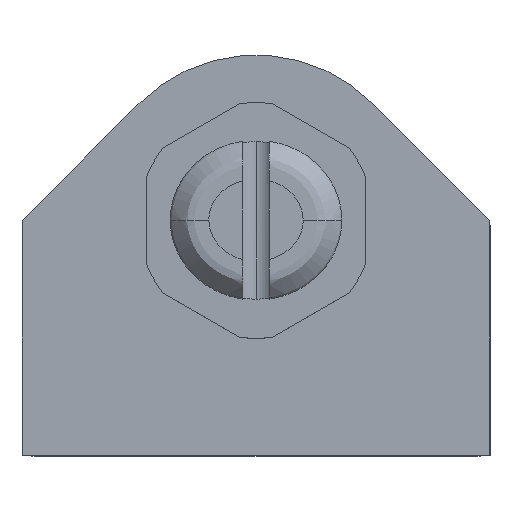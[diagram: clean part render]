
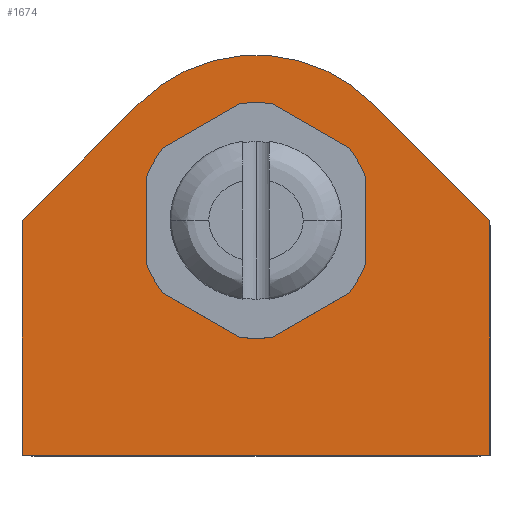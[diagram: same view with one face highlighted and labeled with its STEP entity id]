
A CAD part, top view. The second image highlights one B-rep face of the part: STEP entity #1674.
In plain terms, the highlighted planar face has unit normal (0, 0, 1).
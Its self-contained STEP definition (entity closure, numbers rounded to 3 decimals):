
#3 = ORIENTED_EDGE ( 'NONE', *, *, #2504, .T. ) ;
#42 = ORIENTED_EDGE ( 'NONE', *, *, #3768, .F. ) ;
#78 = CIRCLE ( 'NONE', #1520, 3.125 ) ;
#124 = VERTEX_POINT ( 'NONE', #5316 ) ;
#178 = LINE ( 'NONE', #1926, #1513 ) ;
#254 = CARTESIAN_POINT ( 'NONE',  ( 6.2, -6.225, 0. ) ) ;
#274 = LINE ( 'NONE', #6014, #4171 ) ;
#365 = DIRECTION ( 'NONE',  ( 0., -1., 0. ) ) ;
#415 = ORIENTED_EDGE ( 'NONE', *, *, #1038, .F. ) ;
#505 = ORIENTED_EDGE ( 'NONE', *, *, #6405, .F. ) ;
#552 = AXIS2_PLACEMENT_3D ( 'NONE', #2116, #3213, #3876 ) ;
#601 = DIRECTION ( 'NONE',  ( 0., 0., 1. ) ) ;
#714 = DIRECTION ( 'NONE',  ( 1., 0., 0. ) ) ;
#734 = VERTEX_POINT ( 'NONE', #7102 ) ;
#784 = VECTOR ( 'NONE', #4173, 1000. ) ;
#853 = LINE ( 'NONE', #4359, #4773 ) ;
#900 = CARTESIAN_POINT ( 'NONE',  ( 6.2, 0., 0. ) ) ;
#985 = CARTESIAN_POINT ( 'NONE',  ( 2.9, -1.164, 0. ) ) ;
#991 = VERTEX_POINT ( 'NONE', #3211 ) ;
#1038 = EDGE_CURVE ( 'NONE', #124, #4301, #7435, .T. ) ;
#1045 = LINE ( 'NONE', #6217, #4651 ) ;
#1149 = VECTOR ( 'NONE', #2231, 1000. ) ;
#1187 = ORIENTED_EDGE ( 'NONE', *, *, #4784, .T. ) ;
#1206 = ORIENTED_EDGE ( 'NONE', *, *, #5649, .F. ) ;
#1233 = DIRECTION ( 'NONE',  ( 0., 0., 1. ) ) ;
#1254 = VERTEX_POINT ( 'NONE', #7281 ) ;
#1264 = VERTEX_POINT ( 'NONE', #6286 ) ;
#1266 = AXIS2_PLACEMENT_3D ( 'NONE', #6061, #1492, #5420 ) ;
#1273 = DIRECTION ( 'NONE',  ( 0.866, 0.5, 0. ) ) ;
#1281 = VECTOR ( 'NONE', #5031, 1000. ) ;
#1304 = ORIENTED_EDGE ( 'NONE', *, *, #4441, .T. ) ;
#1371 = EDGE_CURVE ( 'NONE', #734, #6169, #3540, .T. ) ;
#1492 = DIRECTION ( 'NONE',  ( 0., 0., -1. ) ) ;
#1502 = EDGE_CURVE ( 'NONE', #3533, #4244, #4507, .T. ) ;
#1509 = VECTOR ( 'NONE', #1931, 1000. ) ;
#1513 = VECTOR ( 'NONE', #4702, 1000. ) ;
#1520 = AXIS2_PLACEMENT_3D ( 'NONE', #5043, #7437, #1614 ) ;
#1542 = VERTEX_POINT ( 'NONE', #6443 ) ;
#1614 = DIRECTION ( 'NONE',  ( 1., 0., 0. ) ) ;
#1625 = VECTOR ( 'NONE', #4499, 1000. ) ;
#1672 = DIRECTION ( 'NONE',  ( 0., 0., 1. ) ) ;
#1674 = ADVANCED_FACE ( 'NONE', ( #5494, #4811 ), #2639, .F. ) ;
#1878 = CARTESIAN_POINT ( 'NONE',  ( -2.458, -1.929, 0. ) ) ;
#1900 = AXIS2_PLACEMENT_3D ( 'NONE', #4293, #3697, #3169 ) ;
#1926 = CARTESIAN_POINT ( 'NONE',  ( 6.2, 0., 0. ) ) ;
#1931 = DIRECTION ( 'NONE',  ( -0.707, -0.707, 0. ) ) ;
#1988 = ORIENTED_EDGE ( 'NONE', *, *, #1502, .F. ) ;
#2022 = EDGE_CURVE ( 'NONE', #6060, #5034, #3902, .T. ) ;
#2116 = CARTESIAN_POINT ( 'NONE',  ( 0., 0., 0. ) ) ;
#2173 = CARTESIAN_POINT ( 'NONE',  ( -2.458, 1.929, 0. ) ) ;
#2231 = DIRECTION ( 'NONE',  ( 0., -1., 0. ) ) ;
#2242 = CARTESIAN_POINT ( 'NONE',  ( 0., 0., 0. ) ) ;
#2333 = VERTEX_POINT ( 'NONE', #4615 ) ;
#2348 = DIRECTION ( 'NONE',  ( 1., 0., 0. ) ) ;
#2374 = VERTEX_POINT ( 'NONE', #985 ) ;
#2495 = EDGE_CURVE ( 'NONE', #4301, #5232, #3916, .T. ) ;
#2504 = EDGE_CURVE ( 'NONE', #6922, #991, #3134, .T. ) ;
#2598 = VERTEX_POINT ( 'NONE', #3698 ) ;
#2615 = CIRCLE ( 'NONE', #3687, 4.384 ) ;
#2639 = PLANE ( 'NONE',  #1266 ) ;
#2758 = CARTESIAN_POINT ( 'NONE',  ( 0., 0., 0. ) ) ;
#2819 = EDGE_LOOP ( 'NONE', ( #505, #42, #1988, #4838, #5941, #415, #1206, #4413, #3601, #5290, #7356, #6417 ) ) ;
#2875 = CARTESIAN_POINT ( 'NONE',  ( -2.9, 1.164, 0. ) ) ;
#2978 = CIRCLE ( 'NONE', #6824, 3.125 ) ;
#3025 = CARTESIAN_POINT ( 'NONE',  ( -6.2, 0., 0. ) ) ;
#3057 = CARTESIAN_POINT ( 'NONE',  ( 0., 0., 0. ) ) ;
#3071 = VECTOR ( 'NONE', #3841, 1000. ) ;
#3134 = LINE ( 'NONE', #3025, #1509 ) ;
#3169 = DIRECTION ( 'NONE',  ( 1., 0., 0. ) ) ;
#3211 = CARTESIAN_POINT ( 'NONE',  ( -6.2, 0., 0. ) ) ;
#3213 = DIRECTION ( 'NONE',  ( 0., 0., 1. ) ) ;
#3302 = CARTESIAN_POINT ( 'NONE',  ( 2.9, -1.164, 0. ) ) ;
#3341 = LINE ( 'NONE', #3302, #1281 ) ;
#3473 = DIRECTION ( 'NONE',  ( 0., 0., 1. ) ) ;
#3533 = VERTEX_POINT ( 'NONE', #7015 ) ;
#3540 = LINE ( 'NONE', #4027, #4872 ) ;
#3601 = ORIENTED_EDGE ( 'NONE', *, *, #6715, .F. ) ;
#3687 = AXIS2_PLACEMENT_3D ( 'NONE', #3057, #601, #2348 ) ;
#3697 = DIRECTION ( 'NONE',  ( 0., 0., 1. ) ) ;
#3698 = CARTESIAN_POINT ( 'NONE',  ( 2.458, 1.929, 0. ) ) ;
#3768 = EDGE_CURVE ( 'NONE', #4244, #3810, #7041, .T. ) ;
#3783 = ORIENTED_EDGE ( 'NONE', *, *, #2022, .F. ) ;
#3810 = VERTEX_POINT ( 'NONE', #4764 ) ;
#3841 = DIRECTION ( 'NONE',  ( -0.866, -0.5, 0. ) ) ;
#3854 = EDGE_CURVE ( 'NONE', #2333, #5034, #274, .T. ) ;
#3861 = EDGE_LOOP ( 'NONE', ( #4988, #3783, #1304, #1187, #3, #4798 ) ) ;
#3876 = DIRECTION ( 'NONE',  ( 1., 0., 0. ) ) ;
#3902 = LINE ( 'NONE', #7274, #1625 ) ;
#3916 = CIRCLE ( 'NONE', #4162, 3.125 ) ;
#4027 = CARTESIAN_POINT ( 'NONE',  ( 0.442, -3.094, 0. ) ) ;
#4162 = AXIS2_PLACEMENT_3D ( 'NONE', #2242, #1672, #714 ) ;
#4171 = VECTOR ( 'NONE', #6617, 1000. ) ;
#4173 = DIRECTION ( 'NONE',  ( 0.866, -0.5, 0. ) ) ;
#4244 = VERTEX_POINT ( 'NONE', #7371 ) ;
#4293 = CARTESIAN_POINT ( 'NONE',  ( 0., 0., 0. ) ) ;
#4301 = VERTEX_POINT ( 'NONE', #2173 ) ;
#4359 = CARTESIAN_POINT ( 'NONE',  ( -6.2, -2.175, 0. ) ) ;
#4413 = ORIENTED_EDGE ( 'NONE', *, *, #6436, .F. ) ;
#4441 = EDGE_CURVE ( 'NONE', #6060, #1542, #178, .T. ) ;
#4499 = DIRECTION ( 'NONE',  ( 0., -1., 0. ) ) ;
#4507 = CIRCLE ( 'NONE', #7052, 3.125 ) ;
#4510 = DIRECTION ( 'NONE',  ( -0.866, 0.5, 0. ) ) ;
#4532 = CARTESIAN_POINT ( 'NONE',  ( -2.9, 1.164, 0. ) ) ;
#4615 = CARTESIAN_POINT ( 'NONE',  ( -6.2, -6.225, 0. ) ) ;
#4624 = DIRECTION ( 'NONE',  ( 1., 0., 0. ) ) ;
#4630 = EDGE_CURVE ( 'NONE', #5232, #3533, #6182, .T. ) ;
#4651 = VECTOR ( 'NONE', #4510, 1000. ) ;
#4702 = DIRECTION ( 'NONE',  ( -0.707, 0.707, 0. ) ) ;
#4764 = CARTESIAN_POINT ( 'NONE',  ( -0.442, -3.094, 0. ) ) ;
#4773 = VECTOR ( 'NONE', #365, 1000. ) ;
#4784 = EDGE_CURVE ( 'NONE', #1542, #6922, #2615, .T. ) ;
#4798 = ORIENTED_EDGE ( 'NONE', *, *, #7188, .T. ) ;
#4811 = FACE_OUTER_BOUND ( 'NONE', #3861, .T. ) ;
#4838 = ORIENTED_EDGE ( 'NONE', *, *, #4630, .F. ) ;
#4872 = VECTOR ( 'NONE', #1273, 1000. ) ;
#4988 = ORIENTED_EDGE ( 'NONE', *, *, #3854, .T. ) ;
#5031 = DIRECTION ( 'NONE',  ( 0., 1., 0. ) ) ;
#5034 = VERTEX_POINT ( 'NONE', #254 ) ;
#5043 = CARTESIAN_POINT ( 'NONE',  ( 0., 0., 0. ) ) ;
#5232 = VERTEX_POINT ( 'NONE', #4532 ) ;
#5268 = CIRCLE ( 'NONE', #552, 3.125 ) ;
#5290 = ORIENTED_EDGE ( 'NONE', *, *, #5381, .F. ) ;
#5316 = CARTESIAN_POINT ( 'NONE',  ( -0.442, 3.094, 0. ) ) ;
#5372 = CIRCLE ( 'NONE', #1900, 3.125 ) ;
#5381 = EDGE_CURVE ( 'NONE', #2374, #1254, #3341, .T. ) ;
#5420 = DIRECTION ( 'NONE',  ( -1., 0., 0. ) ) ;
#5494 = FACE_BOUND ( 'NONE', #2819, .T. ) ;
#5613 = CARTESIAN_POINT ( 'NONE',  ( 2.458, -1.929, 0. ) ) ;
#5649 = EDGE_CURVE ( 'NONE', #1264, #124, #5372, .T. ) ;
#5765 = CARTESIAN_POINT ( 'NONE',  ( 0., 0., 0. ) ) ;
#5941 = ORIENTED_EDGE ( 'NONE', *, *, #2495, .F. ) ;
#6014 = CARTESIAN_POINT ( 'NONE',  ( -6.2, -6.225, 0. ) ) ;
#6060 = VERTEX_POINT ( 'NONE', #900 ) ;
#6061 = CARTESIAN_POINT ( 'NONE',  ( -6.2, -2.175, 0. ) ) ;
#6105 = CARTESIAN_POINT ( 'NONE',  ( -3.1, 3.1, 0. ) ) ;
#6161 = EDGE_CURVE ( 'NONE', #6169, #2374, #5268, .T. ) ;
#6169 = VERTEX_POINT ( 'NONE', #5613 ) ;
#6182 = LINE ( 'NONE', #2875, #1149 ) ;
#6217 = CARTESIAN_POINT ( 'NONE',  ( 2.458, 1.929, 0. ) ) ;
#6286 = CARTESIAN_POINT ( 'NONE',  ( 0.442, 3.094, 0. ) ) ;
#6405 = EDGE_CURVE ( 'NONE', #3810, #734, #78, .T. ) ;
#6417 = ORIENTED_EDGE ( 'NONE', *, *, #1371, .F. ) ;
#6436 = EDGE_CURVE ( 'NONE', #2598, #1264, #1045, .T. ) ;
#6443 = CARTESIAN_POINT ( 'NONE',  ( 3.1, 3.1, 0. ) ) ;
#6617 = DIRECTION ( 'NONE',  ( 1., 0., 0. ) ) ;
#6715 = EDGE_CURVE ( 'NONE', #1254, #2598, #2978, .T. ) ;
#6824 = AXIS2_PLACEMENT_3D ( 'NONE', #2758, #3473, #4624 ) ;
#6899 = DIRECTION ( 'NONE',  ( 1., 0., 0. ) ) ;
#6922 = VERTEX_POINT ( 'NONE', #6105 ) ;
#7015 = CARTESIAN_POINT ( 'NONE',  ( -2.9, -1.164, 0. ) ) ;
#7041 = LINE ( 'NONE', #1878, #784 ) ;
#7052 = AXIS2_PLACEMENT_3D ( 'NONE', #5765, #1233, #6899 ) ;
#7102 = CARTESIAN_POINT ( 'NONE',  ( 0.442, -3.094, 0. ) ) ;
#7188 = EDGE_CURVE ( 'NONE', #991, #2333, #853, .T. ) ;
#7274 = CARTESIAN_POINT ( 'NONE',  ( 6.2, -2.175, 0. ) ) ;
#7281 = CARTESIAN_POINT ( 'NONE',  ( 2.9, 1.164, 0. ) ) ;
#7320 = CARTESIAN_POINT ( 'NONE',  ( -0.442, 3.094, 0. ) ) ;
#7356 = ORIENTED_EDGE ( 'NONE', *, *, #6161, .F. ) ;
#7371 = CARTESIAN_POINT ( 'NONE',  ( -2.458, -1.929, 0. ) ) ;
#7435 = LINE ( 'NONE', #7320, #3071 ) ;
#7437 = DIRECTION ( 'NONE',  ( 0., 0., 1. ) ) ;
